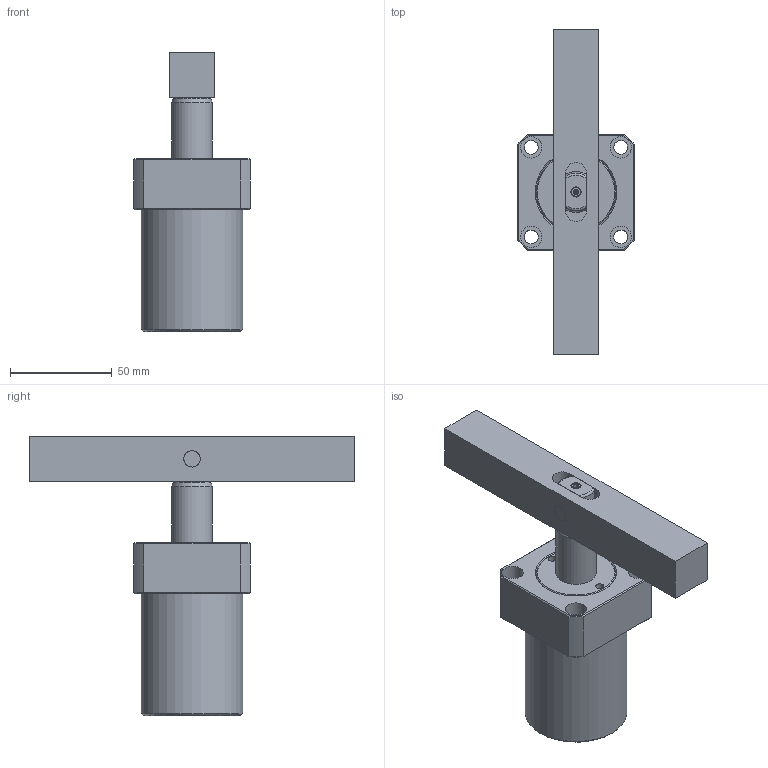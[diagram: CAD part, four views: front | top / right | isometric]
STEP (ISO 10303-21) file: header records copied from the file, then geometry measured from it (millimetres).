
FILE_DESCRIPTION(/* description */ (''),/* implementation_level */ '2;1');
FILE_NAME(/* name */ 'HSC-FA32D-B',/* time_stamp */ '2020-10-22T09:24:18+08:00',/* author */ ('JEFF HUANG'),/* organization */ ('TAIWAN AMAC CLAMP INDUSTRIAL CO., LTD.'),/* preprocessor_version */ 'ST-DEVELOPER v16.7',/* originating_system */ 'DEX',/* authorisation */ $);
FILE_SCHEMA (('AUTOMOTIVE_DESIGN {1 0 10303 214 3 1 1}'));
Length unit declared in the file: millimetre
Products named in the file (5): HSC-FA32D-B; HSC-FA32D-CYLINDER; HSC-3202-D-AXLE CENTRE; HSC-3202-D-FIXED PIN; HSC-32D-B
Assembly tree (4 placements, depth 2):
  HSC-FA32D-B
    HSC-FA32D-CYLINDER
    HSC-3202-D-AXLE CENTRE
    HSC-3202-D-FIXED PIN
    HSC-32D-B
Bounding box: 57 x 160 x 137.2 mm (x, y, z)
Volume: 255211.3 mm3; surface area: 55599.9 mm2
Topology: 4 solids, 4 shells, 114 faces, 240 edges, 149 vertices
Faces by surface type: plane 51, cylinder 29, cone 18, bspline 12, torus 4
Full cylindrical faces by diameter (mm): 4 x2, 6.8 x4, 8 x4, 10.5 x4, 12.301 x2, 20 x2, 32 x2, 50 x1
Entity records: 3417 total; most frequent: CARTESIAN_POINT 699, DIRECTION 456, ORIENTED_EDGE 382, AXIS2_PLACEMENT_3D 196, EDGE_CURVE 191, EDGE_LOOP 178, FACE_BOUND 178, VERTEX_POINT 133
